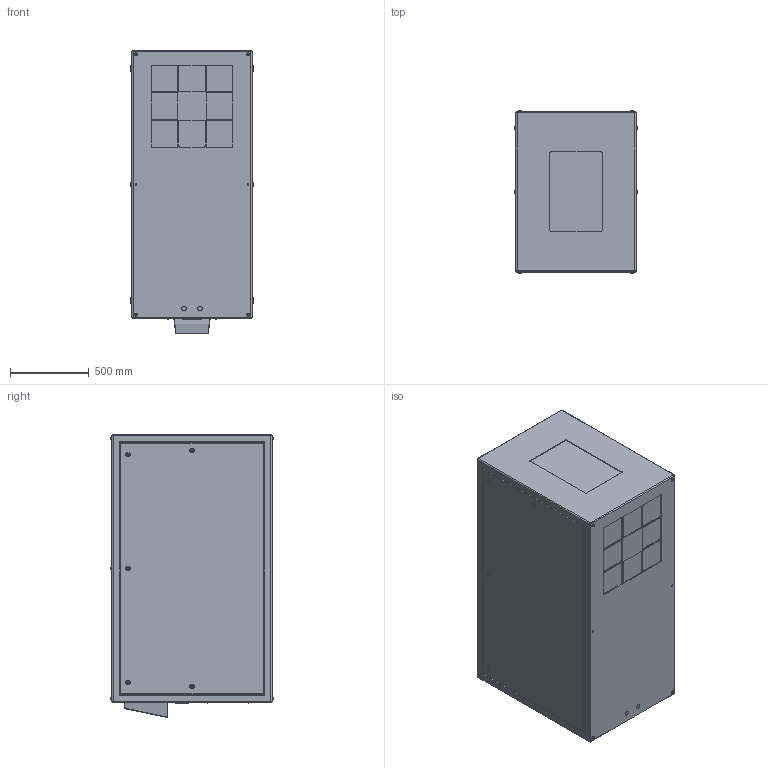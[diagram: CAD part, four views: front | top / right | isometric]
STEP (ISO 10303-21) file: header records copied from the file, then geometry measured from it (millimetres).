
FILE_DESCRIPTION (( 'STEP AP214' ), '1' );
FILE_NAME ('Cyclone 55.525.P.xx R08.STEP', '2020-08-12T17:49:13', ( '' ), ( '' ), 'SwSTEP 2.0', 'SolidWorks 2020', '' );
FILE_SCHEMA (( 'AUTOMOTIVE_DESIGN' ));
Length unit declared in the file: inch
Products named in the file (1): Cyclone 55.525.P.xx R08
Bounding box: 774.7 x 1030.73 x 1797.05 mm (x, y, z)
Volume: 1314529252.3 mm3; surface area: 8360657.3 mm2
Topology: 1 solids, 1 shells, 539 faces, 1254 edges, 800 vertices
Faces by surface type: plane 293, cylinder 186, torus 52, sphere 8
Entity records: 20937 total; most frequent: DIRECTION 2754, CARTESIAN_POINT 2634, ORIENTED_EDGE 2492, EDGE_CURVE 1246, AXIS2_PLACEMENT_3D 984, VERTEX_POINT 800, VECTOR 786, LINE 786
